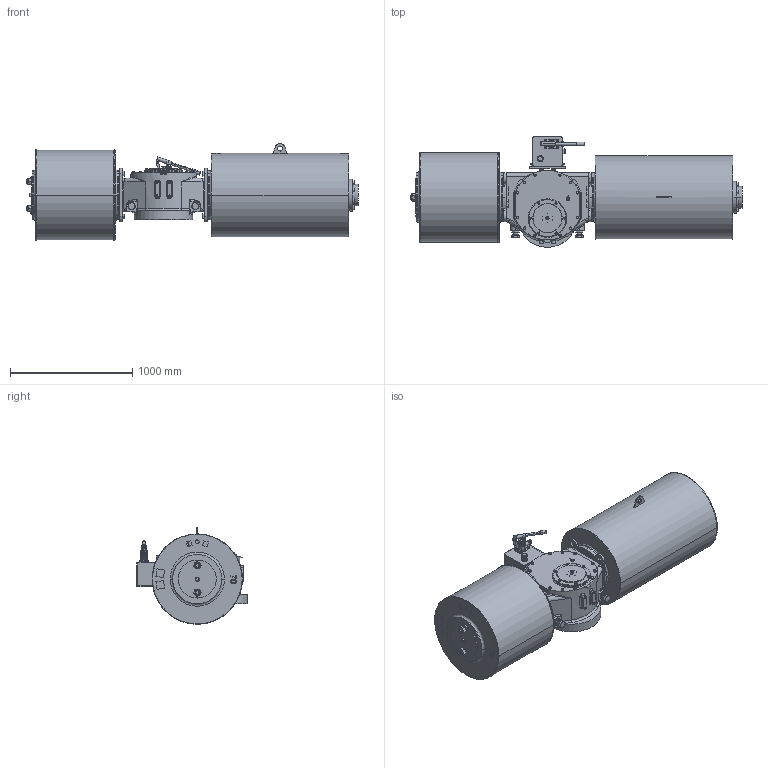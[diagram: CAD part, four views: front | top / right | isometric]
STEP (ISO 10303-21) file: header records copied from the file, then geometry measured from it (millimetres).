
FILE_DESCRIPTION (( 'STEP AP203' ), '1' );
FILE_NAME ('VTS6-700-SR-MH-FC.STEP', '2023-01-01T09:59:08', ( '' ), ( '' ), 'SwSTEP 2.0', 'SolidWorks 2020', '' );
FILE_SCHEMA (( 'CONFIG_CONTROL_DESIGN' ));
Length unit declared in the file: millimetre
Products named in the file (1): VTS6-700-SR-MH-FC
Bounding box: 2712 x 903.5 x 789.5 mm (x, y, z)
Volume: 823467147.4 mm3; surface area: 9350473.4 mm2
Topology: 52 solids, 63 shells, 3063 faces, 7657 edges, 4876 vertices
Faces by surface type: plane 1232, cylinder 1067, cone 675, bspline 89
Entity records: 105422 total; most frequent: CARTESIAN_POINT 32383, DIRECTION 15446, ORIENTED_EDGE 15170, EDGE_CURVE 7585, AXIS2_PLACEMENT_3D 6133, VERTEX_POINT 4876, EDGE_LOOP 3493, VECTOR 3180
